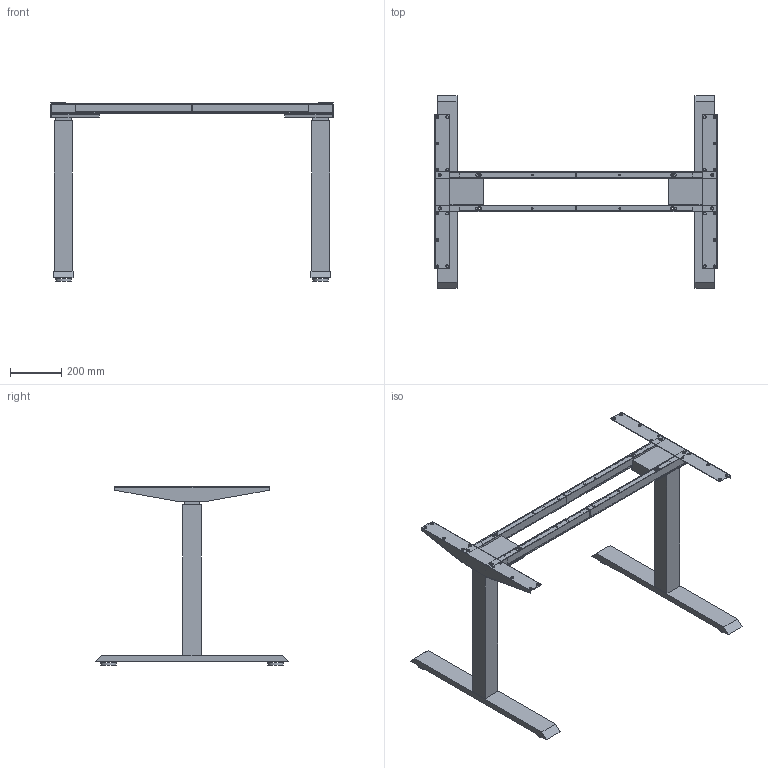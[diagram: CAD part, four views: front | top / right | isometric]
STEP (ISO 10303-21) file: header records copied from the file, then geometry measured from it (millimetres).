
FILE_DESCRIPTION( ( 'STEP AP214' ), '1' );
FILE_NAME( 'D:/Yug/2022/Actiforce_2022/QC/9309751.stp', '2022-03-02T07:35:01', ( '' ), ( '' ), ' ', 'PARTsolutions', ' ' );
FILE_SCHEMA( ( 'AUTOMOTIVE_DESIGN { 1 0 10303 214 1 1 1 1 }' ) );
Length unit declared in the file: millimetre
Products named in the file (6): 9309751(W1100XH598.3); _foot_sf_370_1100_598.3; _column_sf_370_598.3; _housing_plate_sf_470; _top_support_sf_370; _crossbar_sf_570
Assembly tree (10 placements, depth 2):
  9309751(W1100XH598.3)
    _foot_sf_370_1100_598.3  x2
    _column_sf_370_598.3  x2
    _housing_plate_sf_470  x2
    _top_support_sf_370  x2
    _crossbar_sf_570  x2
Bounding box: 1100 x 750 x 692 mm (x, y, z)
Volume: 11587703.1 mm3; surface area: 1876382.8 mm2
Topology: 10 solids, 10 shells, 308 faces, 722 edges, 484 vertices
Faces by surface type: plane 198, cylinder 110
Full cylindrical faces by diameter (mm): 6.5 x14, 6.8 x8, 10 x20, 10.5 x20, 12 x8, 12.7 x4, 13.46 x8, 17.06 x8, 17.4 x8, 59.84 x4
Entity records: 5634 total; most frequent: DIRECTION 746, CARTESIAN_POINT 709, ORIENTED_EDGE 612, EDGE_CURVE 306, EDGE_LOOP 292, AXIS2_PLACEMENT_3D 275, VERTEX_POINT 238, FACE_OUTER_BOUND 205
